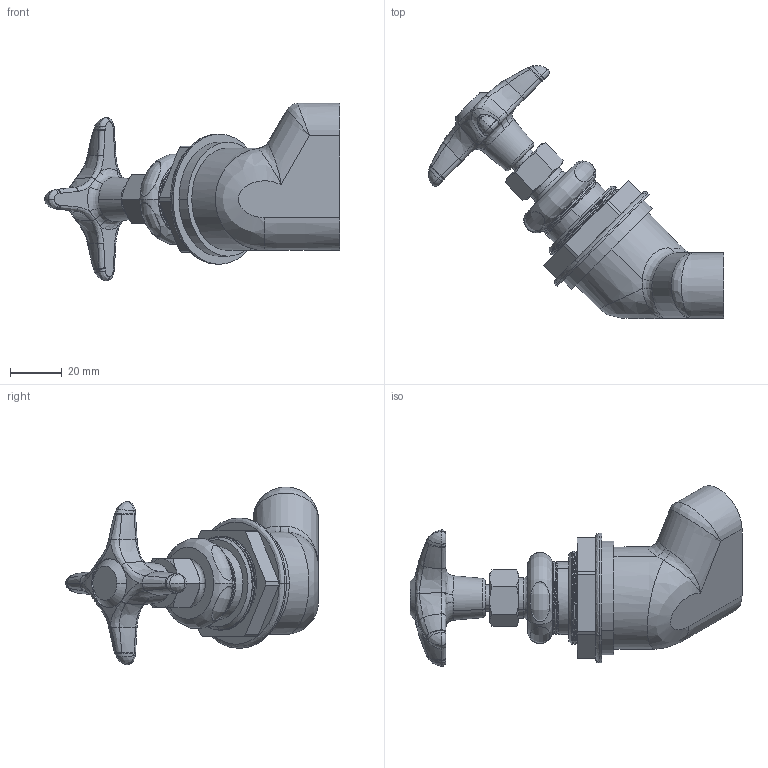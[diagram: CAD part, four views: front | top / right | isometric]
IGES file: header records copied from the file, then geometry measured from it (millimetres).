
Start section:  PTC IGES file: LRV-F1-A2B.igs
Global section: file name: LRV-F1-A2B.igs; native system: Creo Parametric by PTC Inc.; preprocessor: 2014500; author: usch_engrender; organization: Unknown; date: 20160208.143704; units: inch
Bounding box: 114.57 x 98.14 x 69.01 mm (x, y, z)
Surface area: 29744.3 mm2 (no closed solid volume)
Topology: 0 solids, 16 shells, 247 faces, 599 edges, 367 vertices
Faces by surface type: bspline 168, revolution 79
